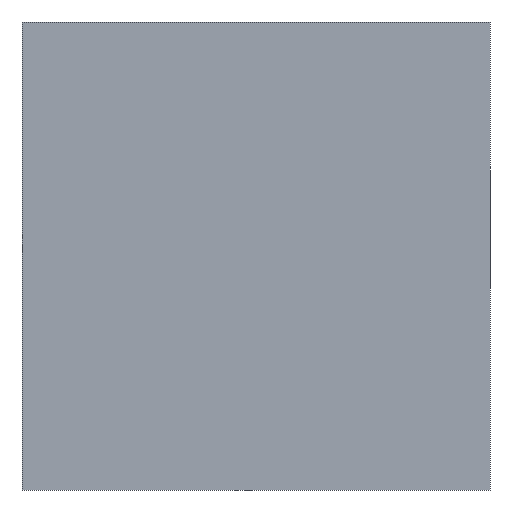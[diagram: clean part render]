
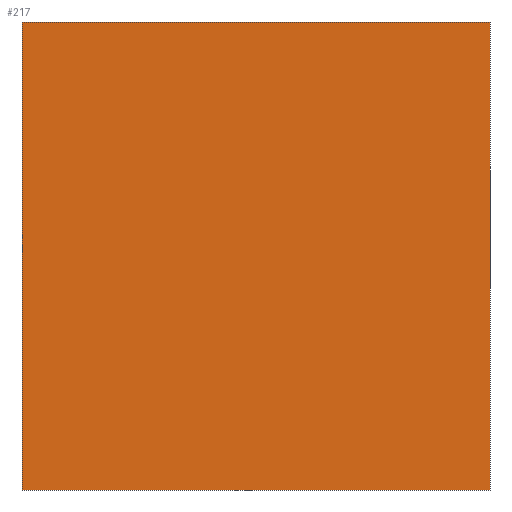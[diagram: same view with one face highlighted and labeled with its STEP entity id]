
A CAD part, front view. The second image highlights one B-rep face of the part: STEP entity #217.
In plain terms, the highlighted planar face has unit normal (0, -1, 0).
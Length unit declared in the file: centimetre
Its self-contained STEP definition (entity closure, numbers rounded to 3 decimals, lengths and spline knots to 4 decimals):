
#16 = VECTOR ( 'NONE', #245, 100. ) ;
#24 = LINE ( 'NONE', #226, #443 ) ;
#66 = CARTESIAN_POINT ( 'NONE',  ( 1000., 0., 1000. ) ) ;
#98 = CARTESIAN_POINT ( 'NONE',  ( 1000., 0., 0. ) ) ;
#104 = LINE ( 'NONE', #179, #16 ) ;
#115 = CARTESIAN_POINT ( 'NONE',  ( 1000., 0., 1000. ) ) ;
#124 = VECTOR ( 'NONE', #399, 100. ) ;
#125 = VERTEX_POINT ( 'NONE', #115 ) ;
#134 = VECTOR ( 'NONE', #343, 100. ) ;
#139 = LINE ( 'NONE', #380, #124 ) ;
#147 = LINE ( 'NONE', #66, #134 ) ;
#178 = EDGE_CURVE ( 'NONE', #197, #125, #24, .T. ) ;
#179 = CARTESIAN_POINT ( 'NONE',  ( 0., 0., 1000. ) ) ;
#192 = ORIENTED_EDGE ( 'NONE', *, *, #341, .T. ) ;
#197 = VERTEX_POINT ( 'NONE', #238 ) ;
#198 = FACE_OUTER_BOUND ( 'NONE', #303, .T. ) ;
#203 = PLANE ( 'NONE',  #338 ) ;
#209 = EDGE_CURVE ( 'NONE', #430, #362, #139, .T. ) ;
#217 = ADVANCED_FACE ( 'NONE', ( #198 ), #203, .F. ) ;
#226 = CARTESIAN_POINT ( 'NONE',  ( 0., 0., 1000. ) ) ;
#232 = DIRECTION ( 'NONE',  ( 1., 0., 0. ) ) ;
#238 = CARTESIAN_POINT ( 'NONE',  ( 0., 0., 1000. ) ) ;
#245 = DIRECTION ( 'NONE',  ( 0., 0., -1. ) ) ;
#258 = CARTESIAN_POINT ( 'NONE',  ( 0., 0., 1000. ) ) ;
#297 = DIRECTION ( 'NONE',  ( 0., 0., 1. ) ) ;
#303 = EDGE_LOOP ( 'NONE', ( #317, #407, #426, #192 ) ) ;
#317 = ORIENTED_EDGE ( 'NONE', *, *, #209, .T. ) ;
#318 = EDGE_CURVE ( 'NONE', #125, #362, #147, .T. ) ;
#331 = CARTESIAN_POINT ( 'NONE',  ( 0., 0., 0. ) ) ;
#335 = DIRECTION ( 'NONE',  ( 0., 1., 0. ) ) ;
#338 = AXIS2_PLACEMENT_3D ( 'NONE', #258, #335, #297 ) ;
#341 = EDGE_CURVE ( 'NONE', #197, #430, #104, .T. ) ;
#343 = DIRECTION ( 'NONE',  ( 0., 0., -1. ) ) ;
#362 = VERTEX_POINT ( 'NONE', #98 ) ;
#380 = CARTESIAN_POINT ( 'NONE',  ( 0., 0., 0. ) ) ;
#399 = DIRECTION ( 'NONE',  ( 1., 0., 0. ) ) ;
#407 = ORIENTED_EDGE ( 'NONE', *, *, #318, .F. ) ;
#426 = ORIENTED_EDGE ( 'NONE', *, *, #178, .F. ) ;
#430 = VERTEX_POINT ( 'NONE', #331 ) ;
#443 = VECTOR ( 'NONE', #232, 100. ) ;
